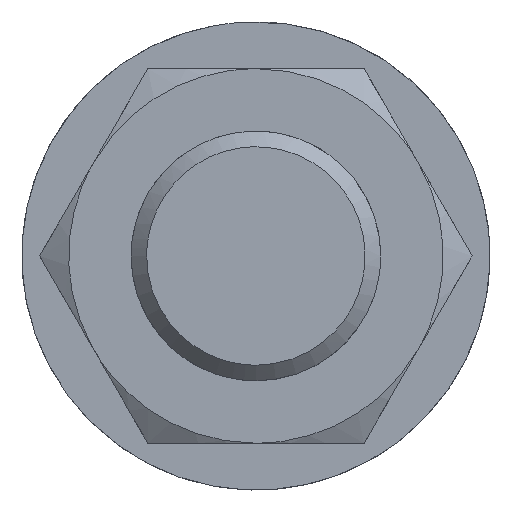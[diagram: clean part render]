
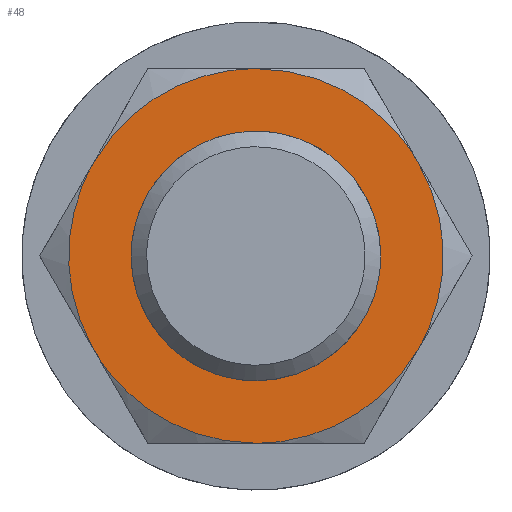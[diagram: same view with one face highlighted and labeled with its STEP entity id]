
A CAD part, left-side view. The second image highlights one B-rep face of the part: STEP entity #48.
In plain terms, the highlighted planar face has unit normal (-1, 0, 0).
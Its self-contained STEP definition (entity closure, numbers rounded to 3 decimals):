
#39=FACE_BOUND('',#135,.T.);
#48=ADVANCED_FACE('',(#90,#39),#650,.T.);
#90=FACE_OUTER_BOUND('',#134,.T.);
#134=EDGE_LOOP('',(#198,#199,#200,#201,#202,#203));
#135=EDGE_LOOP('',(#204,#205));
#198=ORIENTED_EDGE('',*,*,#397,.F.);
#199=ORIENTED_EDGE('',*,*,#399,.F.);
#200=ORIENTED_EDGE('',*,*,#400,.F.);
#201=ORIENTED_EDGE('',*,*,#398,.F.);
#202=ORIENTED_EDGE('',*,*,#396,.F.);
#203=ORIENTED_EDGE('',*,*,#395,.F.);
#204=ORIENTED_EDGE('',*,*,#385,.F.);
#205=ORIENTED_EDGE('',*,*,#383,.F.);
#383=EDGE_CURVE('',#596,#586,#507,.T.);
#385=EDGE_CURVE('',#586,#596,#508,.T.);
#395=EDGE_CURVE('',#590,#591,#516,.T.);
#396=EDGE_CURVE('',#591,#595,#517,.T.);
#397=EDGE_CURVE('',#592,#590,#518,.T.);
#398=EDGE_CURVE('',#595,#594,#519,.T.);
#399=EDGE_CURVE('',#593,#592,#520,.T.);
#400=EDGE_CURVE('',#594,#593,#521,.T.);
#507=(
BOUNDED_CURVE()
B_SPLINE_CURVE(2,(#1153,#1154,#1155,#1156,#1157),.UNSPECIFIED.,.F.,.F.)
B_SPLINE_CURVE_WITH_KNOTS((3,2,3),(25.133,37.699,50.266),
 .UNSPECIFIED.)
CURVE()
GEOMETRIC_REPRESENTATION_ITEM()
RATIONAL_B_SPLINE_CURVE((1.,0.707,1.,0.707,1.))
REPRESENTATION_ITEM('')
);
#508=(
BOUNDED_CURVE()
B_SPLINE_CURVE(2,(#1160,#1161,#1162,#1163,#1164),.UNSPECIFIED.,.F.,.F.)
B_SPLINE_CURVE_WITH_KNOTS((3,2,3),(0.,12.566,25.133),
 .UNSPECIFIED.)
CURVE()
GEOMETRIC_REPRESENTATION_ITEM()
RATIONAL_B_SPLINE_CURVE((1.,0.707,1.,0.707,1.))
REPRESENTATION_ITEM('')
);
#516=(
BOUNDED_CURVE()
B_SPLINE_CURVE(2,(#1202,#1203,#1204),.UNSPECIFIED.,.F.,.F.)
B_SPLINE_CURVE_WITH_KNOTS((3,3),(0.,12.566),.UNSPECIFIED.)
CURVE()
GEOMETRIC_REPRESENTATION_ITEM()
RATIONAL_B_SPLINE_CURVE((1.,0.866,1.))
REPRESENTATION_ITEM('')
);
#517=(
BOUNDED_CURVE()
B_SPLINE_CURVE(2,(#1205,#1206,#1207),.UNSPECIFIED.,.F.,.F.)
B_SPLINE_CURVE_WITH_KNOTS((3,3),(0.,12.566),.UNSPECIFIED.)
CURVE()
GEOMETRIC_REPRESENTATION_ITEM()
RATIONAL_B_SPLINE_CURVE((1.,0.866,1.))
REPRESENTATION_ITEM('')
);
#518=(
BOUNDED_CURVE()
B_SPLINE_CURVE(2,(#1208,#1209,#1210),.UNSPECIFIED.,.F.,.F.)
B_SPLINE_CURVE_WITH_KNOTS((3,3),(0.,12.566),.UNSPECIFIED.)
CURVE()
GEOMETRIC_REPRESENTATION_ITEM()
RATIONAL_B_SPLINE_CURVE((1.,0.866,1.))
REPRESENTATION_ITEM('')
);
#519=(
BOUNDED_CURVE()
B_SPLINE_CURVE(2,(#1211,#1212,#1213),.UNSPECIFIED.,.F.,.F.)
B_SPLINE_CURVE_WITH_KNOTS((3,3),(0.,12.566),.UNSPECIFIED.)
CURVE()
GEOMETRIC_REPRESENTATION_ITEM()
RATIONAL_B_SPLINE_CURVE((1.,0.866,1.))
REPRESENTATION_ITEM('')
);
#520=(
BOUNDED_CURVE()
B_SPLINE_CURVE(2,(#1214,#1215,#1216),.UNSPECIFIED.,.F.,.F.)
B_SPLINE_CURVE_WITH_KNOTS((3,3),(0.,12.566),.UNSPECIFIED.)
CURVE()
GEOMETRIC_REPRESENTATION_ITEM()
RATIONAL_B_SPLINE_CURVE((1.,0.866,1.))
REPRESENTATION_ITEM('')
);
#521=(
BOUNDED_CURVE()
B_SPLINE_CURVE(2,(#1217,#1218,#1219),.UNSPECIFIED.,.F.,.F.)
B_SPLINE_CURVE_WITH_KNOTS((3,3),(0.,12.566),.UNSPECIFIED.)
CURVE()
GEOMETRIC_REPRESENTATION_ITEM()
RATIONAL_B_SPLINE_CURVE((1.,0.866,1.))
REPRESENTATION_ITEM('')
);
#586=VERTEX_POINT('',#1121);
#590=VERTEX_POINT('',#1125);
#591=VERTEX_POINT('',#1126);
#592=VERTEX_POINT('',#1127);
#593=VERTEX_POINT('',#1128);
#594=VERTEX_POINT('',#1129);
#595=VERTEX_POINT('',#1130);
#596=VERTEX_POINT('',#1131);
#650=PLANE('',#764);
#764=AXIS2_PLACEMENT_3D('',#878,#790,$);
#790=DIRECTION('',(-1.,0.,0.));
#878=CARTESIAN_POINT('',(22.333,-16.748,14.52));
#1121=CARTESIAN_POINT('',(22.333,0.,-8.));
#1125=CARTESIAN_POINT('',(22.333,-10.392,6.));
#1126=CARTESIAN_POINT('',(22.333,-10.392,-6.));
#1127=CARTESIAN_POINT('',(22.333,0.,12.));
#1128=CARTESIAN_POINT('',(22.333,10.392,6.));
#1129=CARTESIAN_POINT('',(22.333,10.392,-6.));
#1130=CARTESIAN_POINT('',(22.333,0.,-12.));
#1131=CARTESIAN_POINT('',(22.333,0.,8.));
#1153=CARTESIAN_POINT('',(22.333,0.,8.));
#1154=CARTESIAN_POINT('',(22.333,8.,8.));
#1155=CARTESIAN_POINT('',(22.333,8.,0.));
#1156=CARTESIAN_POINT('',(22.333,8.,-8.));
#1157=CARTESIAN_POINT('',(22.333,0.,-8.));
#1160=CARTESIAN_POINT('',(22.333,0.,-8.));
#1161=CARTESIAN_POINT('',(22.333,-8.,-8.));
#1162=CARTESIAN_POINT('',(22.333,-8.,0.));
#1163=CARTESIAN_POINT('',(22.333,-8.,8.));
#1164=CARTESIAN_POINT('',(22.333,0.,8.));
#1202=CARTESIAN_POINT('',(22.333,-10.392,6.));
#1203=CARTESIAN_POINT('',(22.333,-13.856,0.));
#1204=CARTESIAN_POINT('',(22.333,-10.392,-6.));
#1205=CARTESIAN_POINT('',(22.333,-10.392,-6.));
#1206=CARTESIAN_POINT('',(22.333,-6.928,-12.));
#1207=CARTESIAN_POINT('',(22.333,0.,-12.));
#1208=CARTESIAN_POINT('',(22.333,0.,12.));
#1209=CARTESIAN_POINT('',(22.333,-6.928,12.));
#1210=CARTESIAN_POINT('',(22.333,-10.392,6.));
#1211=CARTESIAN_POINT('',(22.333,0.,-12.));
#1212=CARTESIAN_POINT('',(22.333,6.928,-12.));
#1213=CARTESIAN_POINT('',(22.333,10.392,-6.));
#1214=CARTESIAN_POINT('',(22.333,10.392,6.));
#1215=CARTESIAN_POINT('',(22.333,6.928,12.));
#1216=CARTESIAN_POINT('',(22.333,0.,12.));
#1217=CARTESIAN_POINT('',(22.333,10.392,-6.));
#1218=CARTESIAN_POINT('',(22.333,13.856,0.));
#1219=CARTESIAN_POINT('',(22.333,10.392,6.));
